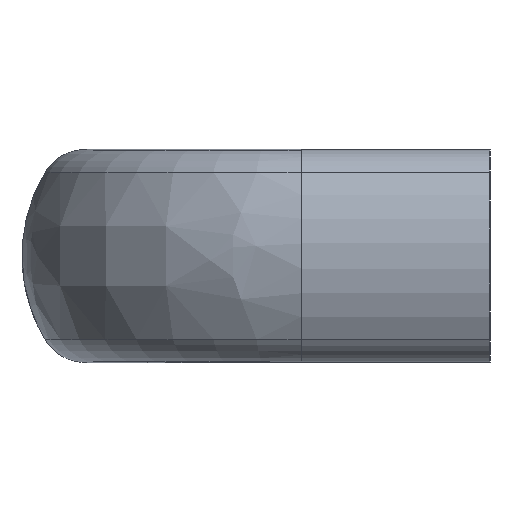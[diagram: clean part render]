
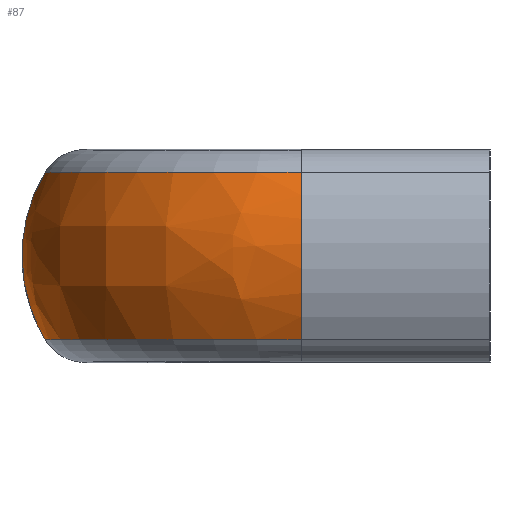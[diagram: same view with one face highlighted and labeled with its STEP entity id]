
A CAD part, left-side view. The second image highlights one B-rep face of the part: STEP entity #87.
In plain terms, the highlighted free-form (B-spline) face has degree [3, 3] with [4, 4] control points.
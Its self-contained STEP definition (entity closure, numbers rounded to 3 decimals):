
#87 = ADVANCED_FACE( '', ( #155 ), #156, .T. );
#155 = FACE_OUTER_BOUND( '', #265, .T. );
#156 = ( BOUNDED_SURFACE(  )B_SPLINE_SURFACE( 3, 3, ( ( #268, #269, #270, #271 ), ( #272, #273, #274, #275 ), ( #276, #277, #278, #279 ), ( #280, #281, #282, #283 ) ), .UNSPECIFIED., .F., .F., .F. )B_SPLINE_SURFACE_WITH_KNOTS( ( 4, 4 ), ( 4, 4 ), ( 1.571, 3.142 ), ( -0.537, 0.537 ), .UNSPECIFIED. )GEOMETRIC_REPRESENTATION_ITEM(  )RATIONAL_B_SPLINE_SURFACE( ( ( 1., 0.805, 0.805, 1. ), ( 0.906, 0.729, 0.729, 0.906 ), ( 0.906, 0.729, 0.729, 0.906 ), ( 1., 0.805, 0.805, 1. ) ) )REPRESENTATION_ITEM( '' )SURFACE(  ) );
#265 = EDGE_LOOP( '', ( #477, #478, #479, #480, #481 ) );
#268 = CARTESIAN_POINT( '', ( -70.5, 54.189, 10.177 ) );
#269 = CARTESIAN_POINT( '', ( -88.77, 54.189, 10.177 ) );
#270 = CARTESIAN_POINT( '', ( -101.689, 41.27, 10.177 ) );
#271 = CARTESIAN_POINT( '', ( -101.689, 23., 10.177 ) );
#272 = CARTESIAN_POINT( '', ( -70.5, 58.02, 3.744 ) );
#273 = CARTESIAN_POINT( '', ( -91.014, 58.02, 3.744 ) );
#274 = CARTESIAN_POINT( '', ( -105.52, 43.514, 3.744 ) );
#275 = CARTESIAN_POINT( '', ( -105.52, 23., 3.744 ) );
#276 = CARTESIAN_POINT( '', ( -70.5, 58.02, -3.744 ) );
#277 = CARTESIAN_POINT( '', ( -91.014, 58.02, -3.744 ) );
#278 = CARTESIAN_POINT( '', ( -105.52, 43.514, -3.744 ) );
#279 = CARTESIAN_POINT( '', ( -105.52, 23., -3.744 ) );
#280 = CARTESIAN_POINT( '', ( -70.5, 54.189, -10.177 ) );
#281 = CARTESIAN_POINT( '', ( -88.77, 54.189, -10.177 ) );
#282 = CARTESIAN_POINT( '', ( -101.689, 41.27, -10.177 ) );
#283 = CARTESIAN_POINT( '', ( -101.689, 23., -10.177 ) );
#477 = ORIENTED_EDGE( '', *, *, #834, .T. );
#478 = ORIENTED_EDGE( '', *, *, #835, .F. );
#479 = ORIENTED_EDGE( '', *, *, #836, .F. );
#480 = ORIENTED_EDGE( '', *, *, #806, .T. );
#481 = ORIENTED_EDGE( '', *, *, #805, .T. );
#805 = EDGE_CURVE( '', #941, #942, #943, .T. );
#806 = EDGE_CURVE( '', #944, #941, #945, .T. );
#834 = EDGE_CURVE( '', #942, #994, #996, .T. );
#835 = EDGE_CURVE( '', #997, #994, #998, .T. );
#836 = EDGE_CURVE( '', #944, #997, #999, .T. );
#941 = VERTEX_POINT( '', #1149 );
#942 = VERTEX_POINT( '', #1150 );
#943 = B_SPLINE_CURVE_WITH_KNOTS( '', 3, ( #1151, #1152, #1153, #1154, #1155, #1156 ), .UNSPECIFIED., .F., .F., ( 4, 2, 4 ), ( 0., 0.5, 1. ), .UNSPECIFIED. );
#944 = VERTEX_POINT( '', #1157 );
#945 = B_SPLINE_CURVE_WITH_KNOTS( '', 3, ( #1158, #1159, #1160, #1161, #1162, #1163 ), .UNSPECIFIED., .F., .F., ( 4, 2, 4 ), ( 0., 0.5, 1. ), .UNSPECIFIED. );
#994 = VERTEX_POINT( '', #1246 );
#996 = CIRCLE( '', #1248, 31.189 );
#997 = VERTEX_POINT( '', #1249 );
#998 = CIRCLE( '', #1250, 19.889 );
#999 = CIRCLE( '', #1251, 31.189 );
#1149 = CARTESIAN_POINT( '', ( -70.5, 56.995, 0.043 ) );
#1150 = CARTESIAN_POINT( '', ( -70.5, 54.189, -10.184 ) );
#1151 = CARTESIAN_POINT( '', ( -70.5, 56.99, 0.043 ) );
#1152 = CARTESIAN_POINT( '', ( -70.5, 56.994, -1.745 ) );
#1153 = CARTESIAN_POINT( '', ( -70.5, 56.755, -3.533 ) );
#1154 = CARTESIAN_POINT( '', ( -70.5, 55.81, -6.981 ) );
#1155 = CARTESIAN_POINT( '', ( -70.5, 55.104, -8.641 ) );
#1156 = CARTESIAN_POINT( '', ( -70.5, 54.189, -10.177 ) );
#1157 = CARTESIAN_POINT( '', ( -70.5, 54.188, 10.185 ) );
#1158 = CARTESIAN_POINT( '', ( -70.5, 54.189, 10.177 ) );
#1159 = CARTESIAN_POINT( '', ( -70.5, 55.097, 8.653 ) );
#1160 = CARTESIAN_POINT( '', ( -70.5, 55.799, 7.008 ) );
#1161 = CARTESIAN_POINT( '', ( -70.5, 56.744, 3.589 ) );
#1162 = CARTESIAN_POINT( '', ( -70.5, 56.986, 1.816 ) );
#1163 = CARTESIAN_POINT( '', ( -70.5, 56.99, 0.043 ) );
#1246 = CARTESIAN_POINT( '', ( -101.689, 23., -10.177 ) );
#1248 = AXIS2_PLACEMENT_3D( '', #1481, #1482, #1483 );
#1249 = CARTESIAN_POINT( '', ( -101.689, 23., 10.177 ) );
#1250 = AXIS2_PLACEMENT_3D( '', #1484, #1485, #1486 );
#1251 = AXIS2_PLACEMENT_3D( '', #1487, #1488, #1489 );
#1481 = CARTESIAN_POINT( '', ( -70.5, 23., -10.177 ) );
#1482 = DIRECTION( '', ( 0., 0., 1. ) );
#1483 = DIRECTION( '', ( 1., 0., 0. ) );
#1484 = CARTESIAN_POINT( '', ( -84.601, 23., 0. ) );
#1485 = DIRECTION( '', ( 0., -1., 0. ) );
#1486 = DIRECTION( '', ( 0., 0., 1. ) );
#1487 = CARTESIAN_POINT( '', ( -70.5, 23., 10.177 ) );
#1488 = DIRECTION( '', ( 0., 0., 1. ) );
#1489 = DIRECTION( '', ( 1., 0., 0. ) );
